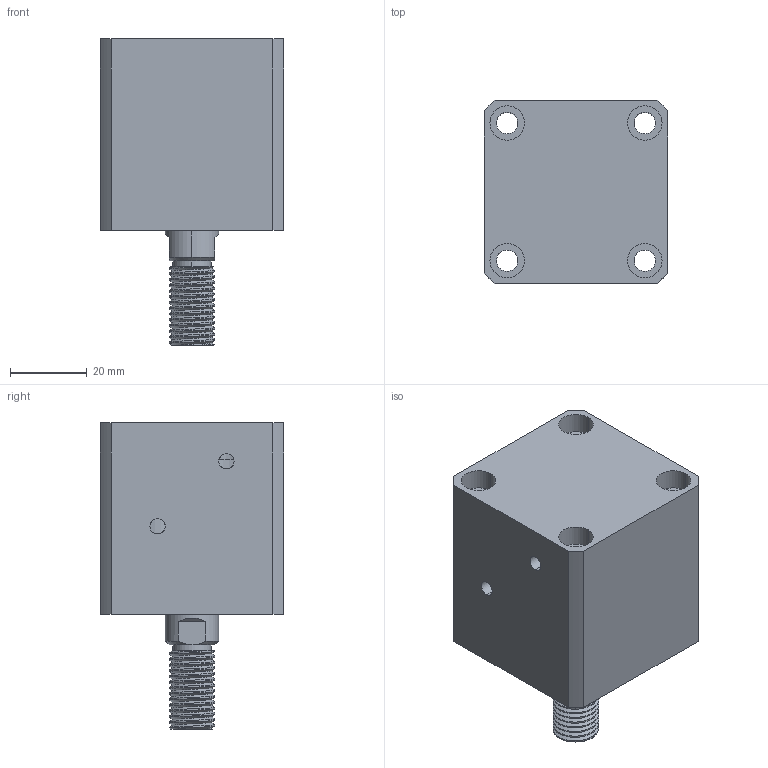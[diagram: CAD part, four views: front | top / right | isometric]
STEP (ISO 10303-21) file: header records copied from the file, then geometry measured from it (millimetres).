
FILE_DESCRIPTION (( 'STEP AP214' ), '1' );
FILE_NAME ('chtb-sdma25x5w_asm.STEP', '2018-05-22T07:16:00', ( 'Windows' ), ( 'Microsoft' ), 'SwSTEP 2.0', 'SolidWorks 2015', '' );
FILE_SCHEMA (( 'AUTOMOTIVE_DESIGN' ));
Length unit declared in the file: millimetre
Products named in the file (4): CHTB-SDMA25X5WHSG; CHTB-SDMA25X5NBT; CHTB-25QG; chtb-sdma25x5w_asm
Assembly tree (3 placements, depth 2):
  chtb-sdma25x5w_asm
    CHTB-25QG
    CHTB-SDMA25X5NBT
    CHTB-SDMA25X5WHSG
Bounding box: 48 x 48 x 80 mm (x, y, z)
Volume: 107813.7 mm3; surface area: 32526.5 mm2
Topology: 3 solids, 3 shells, 176 faces, 476 edges, 323 vertices
Faces by surface type: cylinder 118, plane 37, bspline 12, cone 9
Entity records: 10719 total; most frequent: CARTESIAN_POINT 6404, ORIENTED_EDGE 944, DIRECTION 765, EDGE_CURVE 472, VERTEX_POINT 323, AXIS2_PLACEMENT_3D 310, EDGE_LOOP 215, ADVANCED_FACE 176
